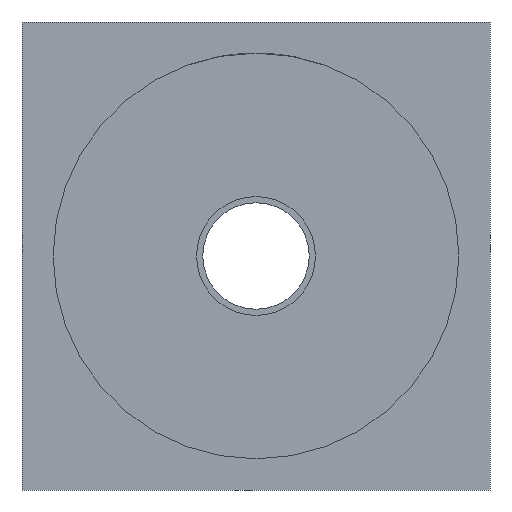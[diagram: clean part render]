
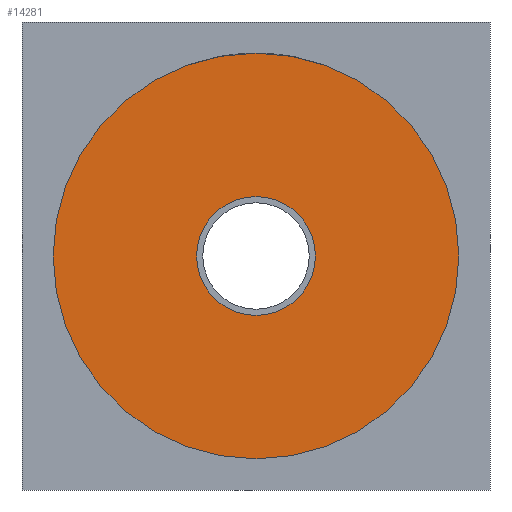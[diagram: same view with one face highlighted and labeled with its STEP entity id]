
A CAD part, front view. The second image highlights one B-rep face of the part: STEP entity #14281.
In plain terms, the highlighted planar face has unit normal (0, -1, 0).
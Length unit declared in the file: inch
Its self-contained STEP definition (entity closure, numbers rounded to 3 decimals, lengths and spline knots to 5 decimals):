
#13749=CARTESIAN_POINT('',(5.11811,2.55906,0.0));
#13750=VERTEX_POINT('',#13749);
#13751=CARTESIAN_POINT('',(0.0,2.55906,0.0));
#13752=DIRECTION('',(0.0,-1.0,0.0));
#13753=DIRECTION('',(1.0,0.0,0.0));
#13754=AXIS2_PLACEMENT_3D('',#13751,#13752,#13753);
#13755=CIRCLE('',#13754,5.11811);
#13756=EDGE_CURVE('',#13750,#13750,#13755,.T.);
#14262=CARTESIAN_POINT('',(3.30906,2.55906,0.0));
#14263=DIRECTION('',(0.0,-1.0,0.0));
#14264=DIRECTION('',(0.0,0.0,-1.0));
#14265=AXIS2_PLACEMENT_3D('',#14262,#14263,#14264);
#14266=PLANE('',#14265);
#14267=ORIENTED_EDGE('',*,*,#13756,.T.);
#14268=EDGE_LOOP('',(#14267));
#14269=FACE_OUTER_BOUND('',#14268,.T.);
#14270=CARTESIAN_POINT('',(1.5,2.55906,0.0));
#14271=VERTEX_POINT('',#14270);
#14272=CARTESIAN_POINT('',(0.0,2.55906,0.0));
#14273=DIRECTION('',(0.0,-1.0,0.0));
#14274=DIRECTION('',(1.0,0.0,0.0));
#14275=AXIS2_PLACEMENT_3D('',#14272,#14273,#14274);
#14276=CIRCLE('',#14275,1.5);
#14277=EDGE_CURVE('',#14271,#14271,#14276,.T.);
#14278=ORIENTED_EDGE('',*,*,#14277,.F.);
#14279=EDGE_LOOP('',(#14278));
#14280=FACE_BOUND('',#14279,.T.);
#14281=ADVANCED_FACE('',(#14269,#14280),#14266,.T.);
